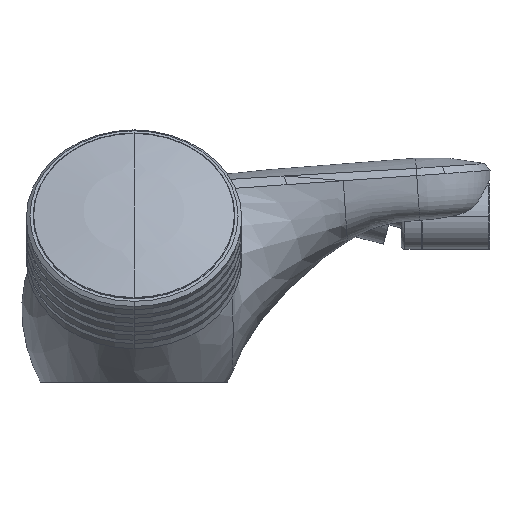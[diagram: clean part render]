
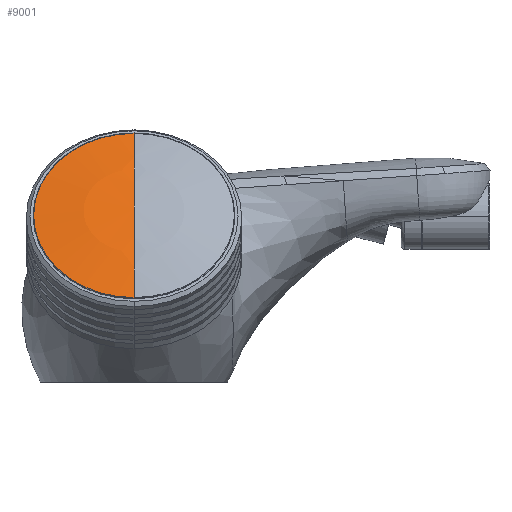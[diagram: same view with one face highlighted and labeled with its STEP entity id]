
A CAD part, left-side view. The second image highlights one B-rep face of the part: STEP entity #9001.
In plain terms, the highlighted spherical face has radius 126.627 mm.
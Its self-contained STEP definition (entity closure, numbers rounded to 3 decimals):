
#1143=CARTESIAN_POINT('',(-65.97,0.,
45.256));
#1144=DIRECTION('',(0.819,0.,-0.574));
#1145=DIRECTION('',(-0.574,0.,-0.819));
#1146=AXIS2_PLACEMENT_3D('',#1143,#1144,#1145);
#1153=CARTESIAN_POINT('',(35.328,0.,
-25.673));
#1154=DIRECTION('',(0.,-1.,0.));
#1155=DIRECTION('',(-0.819,0.,0.574));
#1156=AXIS2_PLACEMENT_3D('',#1153,#1154,#1155);
#1158=CARTESIAN_POINT('',(35.328,0.,
-25.673));
#1159=DIRECTION('',(0.,1.,0.));
#1160=DIRECTION('',(-0.819,0.,0.574));
#1161=AXIS2_PLACEMENT_3D('',#1158,#1159,#1160);
#7216=CARTESIAN_POINT('',(-50.344,0.,
67.572));
#7217=CARTESIAN_POINT('',(-81.596,0.,
22.94));
#7218=VERTEX_POINT('',#7216);
#7219=VERTEX_POINT('',#7217);
#7220=CARTESIAN_POINT('',(-68.399,0.,
46.957));
#7221=VERTEX_POINT('',#7220);
#8989=CARTESIAN_POINT('',(35.328,0.,
-25.673));
#8990=DIRECTION('',(-0.819,0.,0.574));
#8991=DIRECTION('',(-0.574,0.,-0.819));
#8992=AXIS2_PLACEMENT_3D('',#8989,#8990,#8991);
#8993=SPHERICAL_SURFACE('',#8992,126.627);
#8994=ORIENTED_EDGE('',*,*,#8983,.T.);
#8996=ORIENTED_EDGE('',*,*,#8995,.F.);
#8998=ORIENTED_EDGE('',*,*,#8997,.T.);
#8999=EDGE_LOOP('',(#8994,#8996,#8998));
#9000=FACE_OUTER_BOUND('',#8999,.F.);
#9001=ADVANCED_FACE('',(#9000),#8993,.T.);
#1147=CIRCLE('',#1146,27.243);
#1157=CIRCLE('',#1156,126.627);
#1162=CIRCLE('',#1161,126.627);
#8983=EDGE_CURVE('',#7219,#7218,#1147,.T.);
#8995=EDGE_CURVE('',#7221,#7218,#1162,.T.);
#8997=EDGE_CURVE('',#7221,#7219,#1157,.T.);
